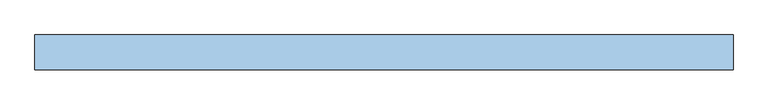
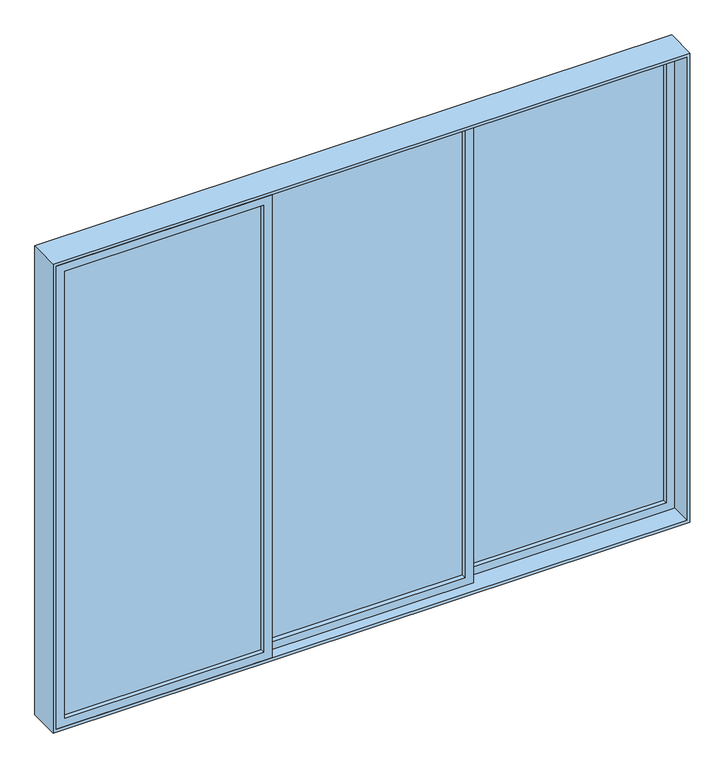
"""IFC4 building model written with IfcOpenShell, lengths in millimetres: window geometry, VENT_ALUM_CORR_3HOJAS_CORRE 1 : V4-VENT_ALUM_CORR_3HOJAS_CORRE 1 - SALA PB 2."""

from ifc_helpers import new_model, si_unit, frame, origin, place, context, project, spatial, polyline, outline, extrude, source, transform, mapped, element, save


def window_c8eb3da8(model_context):
    return source(origin(), model_context, "Body", "SweptSolid", [
        extrude(outline(polyline([(-1455.0, -47.0), (-511.6666667, -47.0), (-511.6666667, -53.0), (-1455.0, -53.0), (-1455.0, -47.0)])), frame((0.0, 0.0, 855.0), z_axis=(0.0, 0.0, 1.0), x_axis=(1.0, 0.0, 0.0)), (0.0, 0.0, 1.0), 2240.0),
        extrude(outline(polyline([(815.0, -1495.0), (815.0, -471.6666667), (3135.0, -471.6666667), (3135.0, -1495.0), (815.0, -1495.0)]), holes=[polyline([(3095.0, -1455.0), (3095.0, -511.6666667), (855.0, -511.6666667), (855.0, -1455.0), (3095.0, -1455.0)])]), frame((0.0, -75.0, 0.0), z_axis=(0.0, 1.0, 0.0), x_axis=(0.0, 0.0, 1.0)), (0.0, 0.0, 1.0), 50.0),
        extrude(outline(polyline([(-471.6666667, 3.0), (471.6666667, 3.0), (471.6666667, -3.0), (-471.6666667, -3.0), (-471.6666667, 3.0)])), frame((0.0, 0.0, 855.0), z_axis=(0.0, 0.0, 1.0), x_axis=(1.0, 0.0, 0.0)), (0.0, 0.0, 1.0), 2240.0),
        extrude(outline(polyline([(815.0, -511.6666667), (815.0, 511.6666667), (3135.0, 511.6666667), (3135.0, -511.6666667), (815.0, -511.6666667)]), holes=[polyline([(3095.0, -471.6666667), (3095.0, 471.6666667), (855.0, 471.6666667), (855.0, -471.6666667), (3095.0, -471.6666667)])]), frame((0.0, -25.0, 0.0), z_axis=(0.0, 1.0, 0.0), x_axis=(0.0, 0.0, 1.0)), (0.0, 0.0, 1.0), 50.0),
        extrude(outline(polyline([(511.6666667, 53.0), (1455.0, 53.0), (1455.0, 47.0), (511.6666667, 47.0), (511.6666667, 53.0)])), frame((0.0, 0.0, 855.0), z_axis=(0.0, 0.0, 1.0), x_axis=(1.0, 0.0, 0.0)), (0.0, 0.0, 1.0), 2240.0),
        extrude(outline(polyline([(815.0, 471.6666667), (815.0, 1495.0), (3135.0, 1495.0), (3135.0, 471.6666667), (815.0, 471.6666667)]), holes=[polyline([(3095.0, 511.6666667), (3095.0, 1455.0), (855.0, 1455.0), (855.0, 511.6666667), (3095.0, 511.6666667)])]), frame((0.0, 25.0, 0.0), z_axis=(0.0, 1.0, 0.0), x_axis=(0.0, 0.0, 1.0)), (0.0, 0.0, 1.0), 50.0),
        extrude(outline(polyline([(800.0, -1510.0), (800.0, 1510.0), (3150.0, 1510.0), (3150.0, -1510.0), (800.0, -1510.0)]), holes=[polyline([(3135.0, -1495.0), (3135.0, 1495.0), (815.0, 1495.0), (815.0, -1495.0), (3135.0, -1495.0)])]), frame((0.0, -75.0, 0.0), z_axis=(0.0, 1.0, 0.0), x_axis=(0.0, 0.0, 1.0)), (0.0, 0.0, 1.0), 150.0),
    ])


if __name__ == "__main__":
    model = new_model("IFC4")
    model_context = context("Model", 3, world=origin())
    ifc_project = project(units=[si_unit("LENGTHUNIT", "METRE", prefix="MILLI")], contexts=[model_context])
    site = spatial("IfcSite", under=ifc_project)
    building = spatial("IfcBuilding", under=site)
    placement = place(None, origin())
    window_shape = window_c8eb3da8(model_context)
    element("IfcWindow", 1, ObjectType="VENT_ALUM_CORR_3HOJAS_CORRE 1 : V4-VENT_ALUM_CORR_3HOJAS_CORRE 1 - SALA PB 2", at=placement, inside=building, context=model_context, shape_type="MappedRepresentation", body=[
        mapped(window_shape, transform((0.0, 0.0, 0.0), x_axis=(1.0, 0.0, 0.0), y_axis=(0.0, 1.0, 0.0), z_axis=(0.0, 0.0, 1.0))),
    ])
    save(model, "model.ifc")
